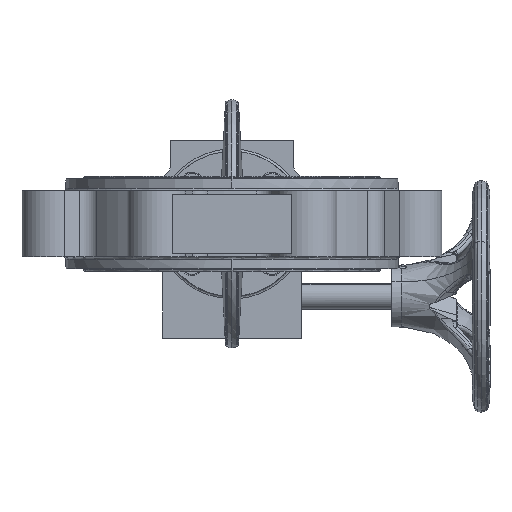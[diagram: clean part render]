
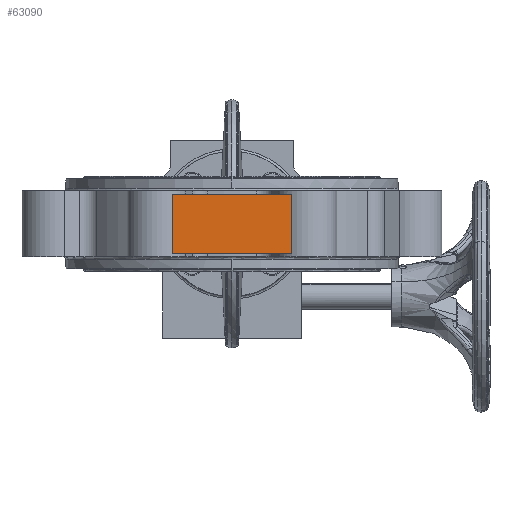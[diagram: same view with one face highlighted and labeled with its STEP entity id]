
A CAD part, front view. The second image highlights one B-rep face of the part: STEP entity #63090.
In plain terms, the highlighted planar face has unit normal (0, -1, 0).
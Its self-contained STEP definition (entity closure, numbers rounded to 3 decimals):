
#3241 = CARTESIAN_POINT ( 'NONE',  ( 0., -128., 0. ) ) ;
#4610 = DIRECTION ( 'NONE',  ( 1., 0., 0. ) ) ;
#15256 = DIRECTION ( 'NONE',  ( -1., 0., 0. ) ) ;
#18319 = EDGE_CURVE ( 'NONE', #60260, #40942, #20024, .T. ) ;
#20024 = LINE ( 'NONE', #34439, #35528 ) ;
#20911 = CARTESIAN_POINT ( 'NONE',  ( -37.001, -128., -20.5 ) ) ;
#24411 = VERTEX_POINT ( 'NONE', #96257 ) ;
#25251 = ORIENTED_EDGE ( 'NONE', *, *, #18319, .T. ) ;
#25602 = DIRECTION ( 'NONE',  ( 0., 0., 1. ) ) ;
#26359 = ORIENTED_EDGE ( 'NONE', *, *, #40252, .F. ) ;
#26737 = CARTESIAN_POINT ( 'NONE',  ( -37.001, -128., 18.5 ) ) ;
#27158 = DIRECTION ( 'NONE',  ( 0., 0., -1. ) ) ;
#27654 = VECTOR ( 'NONE', #59050, 1000. ) ;
#34035 = EDGE_LOOP ( 'NONE', ( #73220, #82855, #26359, #25251 ) ) ;
#34439 = CARTESIAN_POINT ( 'NONE',  ( 0., -128., -18.5 ) ) ;
#35528 = VECTOR ( 'NONE', #4610, 1000. ) ;
#36015 = VECTOR ( 'NONE', #15256, 1000. ) ;
#40252 = EDGE_CURVE ( 'NONE', #60260, #46644, #45638, .T. ) ;
#40942 = VERTEX_POINT ( 'NONE', #87293 ) ;
#44533 = LINE ( 'NONE', #74655, #36015 ) ;
#44691 = EDGE_CURVE ( 'NONE', #24411, #46644, #44533, .T. ) ;
#45638 = LINE ( 'NONE', #20911, #27654 ) ;
#46644 = VERTEX_POINT ( 'NONE', #26737 ) ;
#59050 = DIRECTION ( 'NONE',  ( 0., 0., 1. ) ) ;
#59285 = CARTESIAN_POINT ( 'NONE',  ( -37.001, -128., -18.5 ) ) ;
#60260 = VERTEX_POINT ( 'NONE', #59285 ) ;
#62716 = EDGE_CURVE ( 'NONE', #24411, #40942, #87573, .T. ) ;
#62923 = VECTOR ( 'NONE', #27158, 1000. ) ;
#63090 = ADVANCED_FACE ( 'NONE', ( #91947 ), #92443, .T. ) ;
#64327 = CARTESIAN_POINT ( 'NONE',  ( 37.001, -128., -20.5 ) ) ;
#73220 = ORIENTED_EDGE ( 'NONE', *, *, #62716, .F. ) ;
#74655 = CARTESIAN_POINT ( 'NONE',  ( 0., -128., 18.5 ) ) ;
#82855 = ORIENTED_EDGE ( 'NONE', *, *, #44691, .T. ) ;
#87293 = CARTESIAN_POINT ( 'NONE',  ( 37.001, -128., -18.5 ) ) ;
#87573 = LINE ( 'NONE', #64327, #62923 ) ;
#91947 = FACE_OUTER_BOUND ( 'NONE', #34035, .T. ) ;
#92443 = PLANE ( 'NONE',  #94314 ) ;
#93895 = DIRECTION ( 'NONE',  ( 0., -1., 0. ) ) ;
#94314 = AXIS2_PLACEMENT_3D ( 'NONE', #3241, #93895, #25602 ) ;
#96257 = CARTESIAN_POINT ( 'NONE',  ( 37.001, -128., 18.5 ) ) ;
